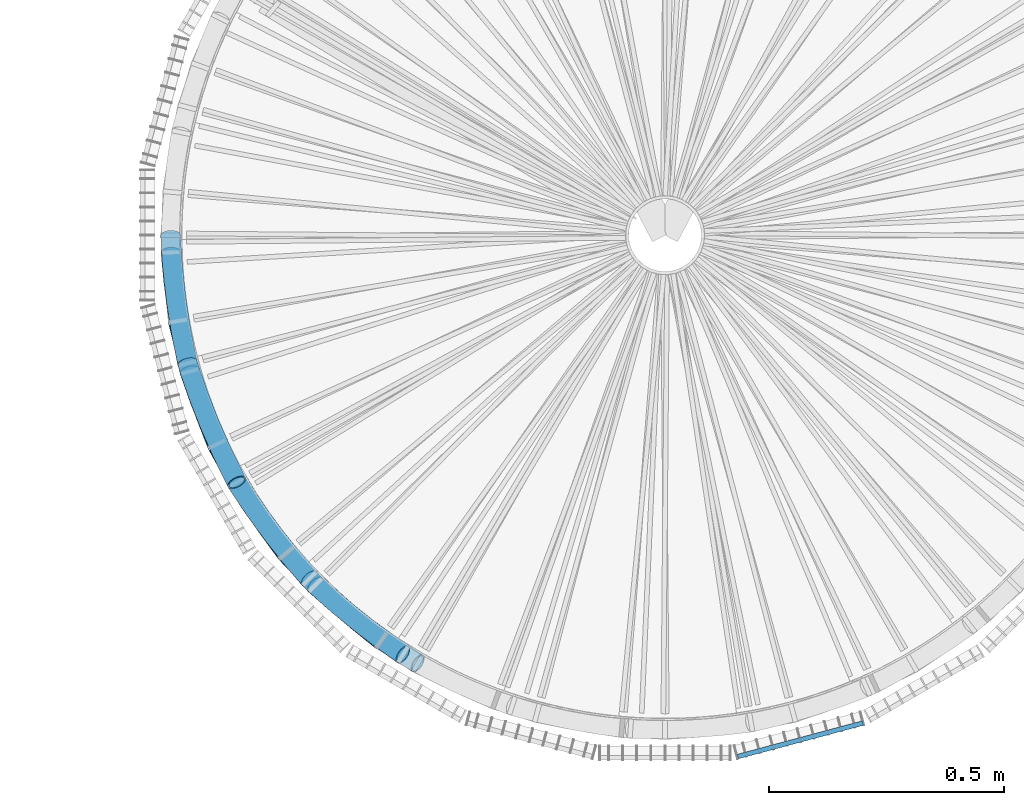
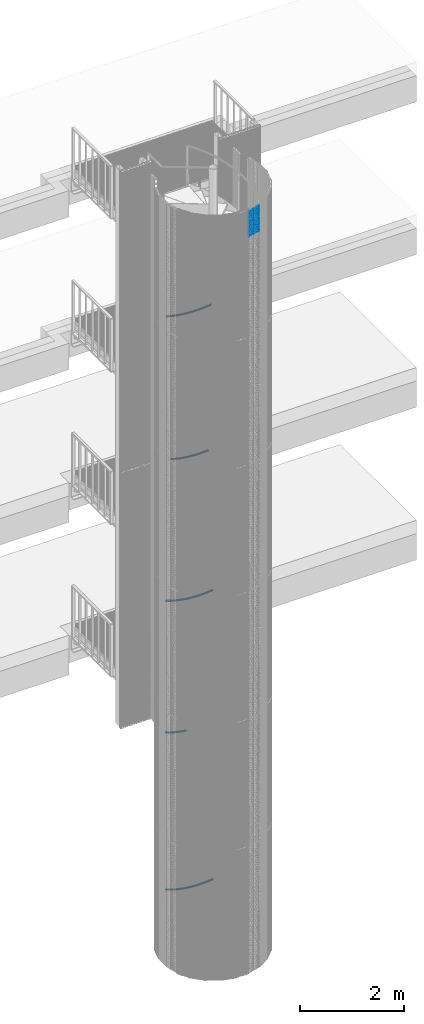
# One storey, part 133 of 1148: 21 beams, 17 members, 18 elements without a shape of their own.
"""IFC2X3 building model written with IfcOpenShell, lengths in millimetres."""

from ifc_helpers import new_model, entity, si_unit, frame, origin_with_axes, origin_2d_with_axis, place, context, subcontext, project, spatial, rectangle, extrude, material, type_object, element, aggregate, save


model = new_model("IFC2X3")

# Units and contexts
model_context = context("Model", 3, precision=1e-05, world=origin_with_axes())
body_context = subcontext(model_context, "Body", "Model", "MODEL_VIEW")
ifc_project = project(units=[si_unit("LENGTHUNIT", "METRE", prefix="MILLI"), si_unit("AREAUNIT", "SQUARE_METRE"), si_unit("VOLUMEUNIT", "CUBIC_METRE"), si_unit("MASSUNIT", "GRAM", prefix="KILO"), si_unit("TIMEUNIT", "SECOND"), si_unit("PLANEANGLEUNIT", "RADIAN"), si_unit("SOLIDANGLEUNIT", "STERADIAN"), si_unit("THERMODYNAMICTEMPERATUREUNIT", "DEGREE_CELSIUS"), si_unit("LUMINOUSINTENSITYUNIT", "LUMEN")], contexts=[model_context])

# Site, building, storey
site_placement = place(None, origin_with_axes())
site = spatial("IfcSite", under=ifc_project, at=site_placement, Name="Undefined", CompositionType="ELEMENT")
building_placement = place(site_placement, origin_with_axes())
building = spatial("IfcBuilding", under=site, at=building_placement, Name="Undefined", CompositionType="ELEMENT")
storey_placement = place(building_placement, origin_with_axes())
storey = spatial("IfcBuildingStorey", under=building, at=storey_placement, Name="Undefined", CompositionType="ELEMENT", Elevation=0.0)

# Assembly, beams
assembly_1_placement = place(storey_placement, origin_with_axes())
assembly_1 = element("IfcElementAssembly", 1, at=assembly_1_placement, inside=storey, Name="BORDURE", AssemblyPlace="NOTDEFINED", PredefinedType="NOTDEFINED")
ifc_material = material(Name="STEEL/S235JR")
beam_type = type_object("IfcBeamType", Name="PL2*10", PredefinedType="NOTDEFINED")
beam_1_placement = place(assembly_1_placement, frame((154.895926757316, -1111.25508286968, 17970.0), z_axis=(0.258819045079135, -0.965925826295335, 0.0), x_axis=(0.965925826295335, 0.258819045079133, 0.0)))
beam_1 = element("IfcBeam", 2, at=beam_1_placement, type_object=beam_type, material=ifc_material, Name="ENTRETOISE", context=body_context, shape_type="SweptSolid", body=[
    extrude(rectangle(XDim=2.0, YDim=10.0, at=origin_2d_with_axis()), frame((275.999999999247, 9.09494701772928e-13, 1.53210777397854e-14), z_axis=(-1.0, 0.0, 0.0), x_axis=(0.0, -1.0, 0.0)), (0.0, 0.0, 1.0), 276.0),
])
beam_2_placement = place(assembly_1_placement, frame((154.895926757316, -1111.25508286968, 17940.0), z_axis=(0.258819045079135, -0.965925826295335, 0.0), x_axis=(0.965925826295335, 0.258819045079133, 0.0)))
beam_2 = element("IfcBeam", 3, at=beam_2_placement, type_object=beam_type, material=ifc_material, Name="ENTRETOISE", context=body_context, shape_type="SweptSolid", body=[
    extrude(rectangle(XDim=2.0, YDim=10.0, at=origin_2d_with_axis()), frame((275.999999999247, 9.09494701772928e-13, 1.53210777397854e-14), z_axis=(-1.0, 0.0, 0.0), x_axis=(0.0, -1.0, 0.0)), (0.0, 0.0, 1.0), 276.0),
])
beam_3_placement = place(assembly_1_placement, frame((154.895926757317, -1111.25508286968, 17910.0), z_axis=(0.258819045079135, -0.965925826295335, 0.0), x_axis=(0.965925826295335, 0.258819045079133, 0.0)))
beam_3 = element("IfcBeam", 4, at=beam_3_placement, type_object=beam_type, material=ifc_material, Name="ENTRETOISE", context=body_context, shape_type="SweptSolid", body=[
    extrude(rectangle(XDim=2.0, YDim=10.0, at=origin_2d_with_axis()), frame((275.999999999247, 9.09494701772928e-13, 1.53210777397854e-14), z_axis=(-1.0, 0.0, 0.0), x_axis=(0.0, -1.0, 0.0)), (0.0, 0.0, 1.0), 276.0),
])
beam_4_placement = place(assembly_1_placement, frame((154.895926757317, -1111.25508286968, 17880.0), z_axis=(0.258819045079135, -0.965925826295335, 0.0), x_axis=(0.965925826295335, 0.258819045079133, 0.0)))
beam_4 = element("IfcBeam", 5, at=beam_4_placement, type_object=beam_type, material=ifc_material, Name="ENTRETOISE", context=body_context, shape_type="SweptSolid", body=[
    extrude(rectangle(XDim=2.0, YDim=10.0, at=origin_2d_with_axis()), frame((275.999999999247, 9.09494701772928e-13, 1.53210777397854e-14), z_axis=(-1.0, 0.0, 0.0), x_axis=(0.0, -1.0, 0.0)), (0.0, 0.0, 1.0), 276.0),
])
beam_5_placement = place(assembly_1_placement, frame((154.895926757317, -1111.25508286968, 17850.0), z_axis=(0.258819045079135, -0.965925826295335, 0.0), x_axis=(0.965925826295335, 0.258819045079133, 0.0)))
beam_5 = element("IfcBeam", 6, at=beam_5_placement, type_object=beam_type, material=ifc_material, Name="ENTRETOISE", context=body_context, shape_type="SweptSolid", body=[
    extrude(rectangle(XDim=2.0, YDim=10.0, at=origin_2d_with_axis()), frame((275.999999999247, 9.09494701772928e-13, 1.53210777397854e-14), z_axis=(-1.0, 0.0, 0.0), x_axis=(0.0, -1.0, 0.0)), (0.0, 0.0, 1.0), 276.0),
])
beam_6_placement = place(assembly_1_placement, frame((154.895926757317, -1111.25508286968, 17820.0), z_axis=(0.258819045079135, -0.965925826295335, 0.0), x_axis=(0.965925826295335, 0.258819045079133, 0.0)))
beam_6 = element("IfcBeam", 7, at=beam_6_placement, type_object=beam_type, material=ifc_material, Name="ENTRETOISE", context=body_context, shape_type="SweptSolid", body=[
    extrude(rectangle(XDim=2.0, YDim=10.0, at=origin_2d_with_axis()), frame((275.999999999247, 9.09494701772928e-13, 1.53210777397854e-14), z_axis=(-1.0, 0.0, 0.0), x_axis=(0.0, -1.0, 0.0)), (0.0, 0.0, 1.0), 276.0),
])
beam_7_placement = place(assembly_1_placement, frame((154.895926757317, -1111.25508286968, 17790.0), z_axis=(0.258819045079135, -0.965925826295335, 0.0), x_axis=(0.965925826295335, 0.258819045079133, 0.0)))
beam_7 = element("IfcBeam", 8, at=beam_7_placement, type_object=beam_type, material=ifc_material, Name="ENTRETOISE", context=body_context, shape_type="SweptSolid", body=[
    extrude(rectangle(XDim=2.0, YDim=10.0, at=origin_2d_with_axis()), frame((275.999999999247, 9.09494701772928e-13, 1.53210777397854e-14), z_axis=(-1.0, 0.0, 0.0), x_axis=(0.0, -1.0, 0.0)), (0.0, 0.0, 1.0), 276.0),
])
beam_8_placement = place(assembly_1_placement, frame((154.895926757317, -1111.25508286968, 17760.0), z_axis=(0.258819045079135, -0.965925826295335, 0.0), x_axis=(0.965925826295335, 0.258819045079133, 0.0)))
beam_8 = element("IfcBeam", 9, at=beam_8_placement, type_object=beam_type, material=ifc_material, Name="ENTRETOISE", context=body_context, shape_type="SweptSolid", body=[
    extrude(rectangle(XDim=2.0, YDim=10.0, at=origin_2d_with_axis()), frame((275.999999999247, 9.09494701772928e-13, 1.53210777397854e-14), z_axis=(-1.0, 0.0, 0.0), x_axis=(0.0, -1.0, 0.0)), (0.0, 0.0, 1.0), 276.0),
])
beam_9_placement = place(assembly_1_placement, frame((154.895926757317, -1111.25508286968, 17730.0), z_axis=(0.258819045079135, -0.965925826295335, 0.0), x_axis=(0.965925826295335, 0.258819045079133, 0.0)))
beam_9 = element("IfcBeam", 10, at=beam_9_placement, type_object=beam_type, material=ifc_material, Name="ENTRETOISE", context=body_context, shape_type="SweptSolid", body=[
    extrude(rectangle(XDim=2.0, YDim=10.0, at=origin_2d_with_axis()), frame((275.999999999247, 9.09494701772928e-13, 1.53210777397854e-14), z_axis=(-1.0, 0.0, 0.0), x_axis=(0.0, -1.0, 0.0)), (0.0, 0.0, 1.0), 276.0),
])
beam_10_placement = place(assembly_1_placement, frame((154.895926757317, -1111.25508286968, 17700.0), z_axis=(0.258819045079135, -0.965925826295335, 0.0), x_axis=(0.965925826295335, 0.258819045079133, 0.0)))
beam_10 = element("IfcBeam", 11, at=beam_10_placement, type_object=beam_type, material=ifc_material, Name="ENTRETOISE", context=body_context, shape_type="SweptSolid", body=[
    extrude(rectangle(XDim=2.0, YDim=10.0, at=origin_2d_with_axis()), frame((275.999999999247, 9.09494701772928e-13, 1.53210777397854e-14), z_axis=(-1.0, 0.0, 0.0), x_axis=(0.0, -1.0, 0.0)), (0.0, 0.0, 1.0), 276.0),
])
beam_11_placement = place(assembly_1_placement, frame((154.895926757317, -1111.25508286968, 17670.0), z_axis=(0.258819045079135, -0.965925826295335, 0.0), x_axis=(0.965925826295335, 0.258819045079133, 0.0)))
beam_11 = element("IfcBeam", 12, at=beam_11_placement, type_object=beam_type, material=ifc_material, Name="ENTRETOISE", context=body_context, shape_type="SweptSolid", body=[
    extrude(rectangle(XDim=2.0, YDim=10.0, at=origin_2d_with_axis()), frame((275.999999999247, 9.09494701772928e-13, 1.53210777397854e-14), z_axis=(-1.0, 0.0, 0.0), x_axis=(0.0, -1.0, 0.0)), (0.0, 0.0, 1.0), 276.0),
])
beam_12_placement = place(assembly_1_placement, frame((154.895926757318, -1111.25508286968, 17640.0), z_axis=(0.258819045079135, -0.965925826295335, 0.0), x_axis=(0.965925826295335, 0.258819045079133, 0.0)))
beam_12 = element("IfcBeam", 13, at=beam_12_placement, type_object=beam_type, material=ifc_material, Name="ENTRETOISE", context=body_context, shape_type="SweptSolid", body=[
    extrude(rectangle(XDim=2.0, YDim=10.0, at=origin_2d_with_axis()), frame((275.999999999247, 9.09494701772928e-13, 1.53210777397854e-14), z_axis=(-1.0, 0.0, 0.0), x_axis=(0.0, -1.0, 0.0)), (0.0, 0.0, 1.0), 276.0),
])
beam_13_placement = place(assembly_1_placement, frame((154.895926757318, -1111.25508286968, 17610.0), z_axis=(0.258819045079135, -0.965925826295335, 0.0), x_axis=(0.965925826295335, 0.258819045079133, 0.0)))
beam_13 = element("IfcBeam", 14, at=beam_13_placement, type_object=beam_type, material=ifc_material, Name="ENTRETOISE", context=body_context, shape_type="SweptSolid", body=[
    extrude(rectangle(XDim=2.0, YDim=10.0, at=origin_2d_with_axis()), frame((275.999999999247, 9.09494701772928e-13, 1.53210777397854e-14), z_axis=(-1.0, 0.0, 0.0), x_axis=(0.0, -1.0, 0.0)), (0.0, 0.0, 1.0), 276.0),
])
beam_14_placement = place(assembly_1_placement, frame((154.895926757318, -1111.25508286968, 17580.0), z_axis=(0.258819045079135, -0.965925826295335, 0.0), x_axis=(0.965925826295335, 0.258819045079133, 0.0)))
beam_14 = element("IfcBeam", 15, at=beam_14_placement, type_object=beam_type, material=ifc_material, Name="ENTRETOISE", context=body_context, shape_type="SweptSolid", body=[
    extrude(rectangle(XDim=2.0, YDim=10.0, at=origin_2d_with_axis()), frame((275.999999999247, 9.09494701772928e-13, 1.53210777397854e-14), z_axis=(-1.0, 0.0, 0.0), x_axis=(0.0, -1.0, 0.0)), (0.0, 0.0, 1.0), 276.0),
])
beam_15_placement = place(assembly_1_placement, frame((154.895926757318, -1111.25508286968, 17550.0), z_axis=(0.258819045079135, -0.965925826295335, 0.0), x_axis=(0.965925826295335, 0.258819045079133, 0.0)))
beam_15 = element("IfcBeam", 16, at=beam_15_placement, type_object=beam_type, material=ifc_material, Name="ENTRETOISE", context=body_context, shape_type="SweptSolid", body=[
    extrude(rectangle(XDim=2.0, YDim=10.0, at=origin_2d_with_axis()), frame((275.999999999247, 9.09494701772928e-13, 1.53210777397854e-14), z_axis=(-1.0, 0.0, 0.0), x_axis=(0.0, -1.0, 0.0)), (0.0, 0.0, 1.0), 276.0),
])
beam_16_placement = place(assembly_1_placement, frame((154.895926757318, -1111.25508286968, 17520.0), z_axis=(0.258819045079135, -0.965925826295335, 0.0), x_axis=(0.965925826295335, 0.258819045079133, 0.0)))
beam_16 = element("IfcBeam", 17, at=beam_16_placement, type_object=beam_type, material=ifc_material, Name="ENTRETOISE", context=body_context, shape_type="SweptSolid", body=[
    extrude(rectangle(XDim=2.0, YDim=10.0, at=origin_2d_with_axis()), frame((275.999999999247, 9.09494701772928e-13, 1.53210777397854e-14), z_axis=(-1.0, 0.0, 0.0), x_axis=(0.0, -1.0, 0.0)), (0.0, 0.0, 1.0), 276.0),
])
beam_17_placement = place(assembly_1_placement, frame((154.895926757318, -1111.25508286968, 17490.0), z_axis=(0.258819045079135, -0.965925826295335, 0.0), x_axis=(0.965925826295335, 0.258819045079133, 0.0)))
beam_17 = element("IfcBeam", 18, at=beam_17_placement, type_object=beam_type, material=ifc_material, Name="ENTRETOISE", context=body_context, shape_type="SweptSolid", body=[
    extrude(rectangle(XDim=2.0, YDim=10.0, at=origin_2d_with_axis()), frame((275.999999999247, 9.09494701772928e-13, 1.53210777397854e-14), z_axis=(-1.0, 0.0, 0.0), x_axis=(0.0, -1.0, 0.0)), (0.0, 0.0, 1.0), 276.0),
])
beam_18_placement = place(assembly_1_placement, frame((154.895926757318, -1111.25508286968, 17460.0), z_axis=(0.258819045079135, -0.965925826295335, 0.0), x_axis=(0.965925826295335, 0.258819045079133, 0.0)))
beam_18 = element("IfcBeam", 19, at=beam_18_placement, type_object=beam_type, material=ifc_material, Name="ENTRETOISE", context=body_context, shape_type="SweptSolid", body=[
    extrude(rectangle(XDim=2.0, YDim=10.0, at=origin_2d_with_axis()), frame((275.999999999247, 9.09494701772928e-13, 1.53210777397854e-14), z_axis=(-1.0, 0.0, 0.0), x_axis=(0.0, -1.0, 0.0)), (0.0, 0.0, 1.0), 276.0),
])
beam_19_placement = place(assembly_1_placement, frame((154.895926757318, -1111.25508286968, 17430.0), z_axis=(0.258819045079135, -0.965925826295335, 0.0), x_axis=(0.965925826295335, 0.258819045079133, 0.0)))
beam_19 = element("IfcBeam", 20, at=beam_19_placement, type_object=beam_type, material=ifc_material, Name="ENTRETOISE", context=body_context, shape_type="SweptSolid", body=[
    extrude(rectangle(XDim=2.0, YDim=10.0, at=origin_2d_with_axis()), frame((275.999999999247, 9.09494701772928e-13, 1.53210777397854e-14), z_axis=(-1.0, 0.0, 0.0), x_axis=(0.0, -1.0, 0.0)), (0.0, 0.0, 1.0), 276.0),
])
beam_20_placement = place(assembly_1_placement, frame((154.895926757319, -1111.25508286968, 17400.0), z_axis=(0.258819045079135, -0.965925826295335, 0.0), x_axis=(0.965925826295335, 0.258819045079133, 0.0)))
beam_20 = element("IfcBeam", 21, at=beam_20_placement, type_object=beam_type, material=ifc_material, Name="ENTRETOISE", context=body_context, shape_type="SweptSolid", body=[
    extrude(rectangle(XDim=2.0, YDim=10.0, at=origin_2d_with_axis()), frame((275.999999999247, 9.09494701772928e-13, 1.53210777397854e-14), z_axis=(-1.0, 0.0, 0.0), x_axis=(0.0, -1.0, 0.0)), (0.0, 0.0, 1.0), 276.0),
])
beam_21_placement = place(assembly_1_placement, frame((154.895926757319, -1111.25508286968, 17370.0), z_axis=(0.258819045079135, -0.965925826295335, 0.0), x_axis=(0.965925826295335, 0.258819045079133, 0.0)))
beam_21 = element("IfcBeam", 22, at=beam_21_placement, type_object=beam_type, material=ifc_material, Name="ENTRETOISE", context=body_context, shape_type="SweptSolid", body=[
    extrude(rectangle(XDim=2.0, YDim=10.0, at=origin_2d_with_axis()), frame((275.999999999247, 9.09494701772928e-13, 1.53210777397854e-14), z_axis=(-1.0, 0.0, 0.0), x_axis=(0.0, -1.0, 0.0)), (0.0, 0.0, 1.0), 276.0),
])
aggregate(assembly_1, [beam_1, beam_2, beam_3, beam_4, beam_5, beam_6, beam_7, beam_8, beam_9, beam_10, beam_11, beam_12, beam_13, beam_14, beam_15, beam_16, beam_17, beam_18, beam_19, beam_20, beam_21])

# Assembly, member
assembly_2_placement = place(storey_placement, origin_with_axes())
assembly_2 = element("IfcElementAssembly", 23, at=assembly_2_placement, inside=storey, Name="MONTANT", AssemblyPlace="NOTDEFINED", PredefinedType="NOTDEFINED")
member_type = type_object("IfcMemberType", Name="TUBE-42.4*3.2", PredefinedType="NOTDEFINED")
member_1_placement = place(assembly_2_placement, frame((-1018.08582090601, -272.795273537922, 5581.08000000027), z_axis=(-0.923879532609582, -0.382683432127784, -1.50203959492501e-10), x_axis=(0.333667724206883, -0.805545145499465, 0.489655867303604)))
member_1 = element("IfcMember", 24, at=member_1_placement, type_object=member_type, material=ifc_material, Name="MAIN_COURANTE", context=body_context, shape_type="SweptSolid", body=[
    entity("IfcRevolvedAreaSolid", entity("IfcCircleHollowProfileDef", "AREA", None, entity("IfcAxis2Placement2D", entity("IfcCartesianPoint", [0.0, 0.0]), entity("IfcDirection", [1.0, 0.0])), 21.200000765, 3.200000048), entity("IfcAxis2Placement3D", entity("IfcCartesianPoint", [315.568566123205, -9.09494701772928e-13, -1.31255851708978e-15]), entity("IfcDirection", [-0.997194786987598, -4.44488503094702e-18, 0.0748502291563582]), entity("IfcDirection", [0.0, -1.0, 0.0])), entity("IfcAxis1Placement", entity("IfcCartesianPoint", [0.0, -2108.0, 0.0]), entity("IfcDirection", [1.0, 0.0, 0.0])), 0.149840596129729),
])
aggregate(assembly_2, [member_1])

assembly_3_placement = place(storey_placement, origin_with_axes())
assembly_3 = element("IfcElementAssembly", 25, at=assembly_3_placement, inside=storey, Name="MONTANT", AssemblyPlace="NOTDEFINED", PredefinedType="NOTDEFINED")
member_2_placement = place(assembly_3_placement, frame((-1054.00000001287, -4.08931555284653e-10, 5426.5600000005), z_axis=(-0.991444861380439, -0.130526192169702, -6.66004780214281e-11), x_axis=(0.11380784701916, -0.864456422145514, 0.489655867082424)))
member_2 = element("IfcMember", 26, at=member_2_placement, type_object=member_type, material=ifc_material, Name="MAIN_COURANTE", context=body_context, shape_type="SweptSolid", body=[
    entity("IfcRevolvedAreaSolid", entity("IfcCircleHollowProfileDef", "AREA", None, entity("IfcAxis2Placement2D", entity("IfcCartesianPoint", [0.0, 0.0]), entity("IfcDirection", [1.0, 0.0])), 21.200000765, 3.200000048), entity("IfcAxis2Placement3D", entity("IfcCartesianPoint", [315.568566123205, -9.09494701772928e-13, -1.31255851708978e-15]), entity("IfcDirection", [-0.997194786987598, -4.44488503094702e-18, 0.0748502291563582]), entity("IfcDirection", [0.0, -1.0, 0.0])), entity("IfcAxis1Placement", entity("IfcCartesianPoint", [0.0, -2108.0, 0.0]), entity("IfcDirection", [1.0, 0.0, 0.0])), 0.149840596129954),
])
aggregate(assembly_3, [member_2])

assembly_4_placement = place(storey_placement, origin_with_axes())
assembly_4 = element("IfcElementAssembly", 27, at=assembly_4_placement, inside=storey, Name="MONTANT", AssemblyPlace="NOTDEFINED", PredefinedType="NOTDEFINED")
member_3_placement = place(assembly_4_placement, frame((-745.290547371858, -745.290547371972, 2181.64000000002), z_axis=(-0.608761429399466, -0.793353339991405, 1.80915776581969e-10), x_axis=(0.691737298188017, -0.530788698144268, 0.489655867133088)))
member_3 = element("IfcMember", 28, at=member_3_placement, type_object=member_type, material=ifc_material, Name="MAIN_COURANTE", context=body_context, shape_type="SweptSolid", body=[
    entity("IfcRevolvedAreaSolid", entity("IfcCircleHollowProfileDef", "AREA", None, entity("IfcAxis2Placement2D", entity("IfcCartesianPoint", [0.0, 0.0]), entity("IfcDirection", [1.0, 0.0])), 21.200000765, 3.200000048), entity("IfcAxis2Placement3D", entity("IfcCartesianPoint", [315.568566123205, -9.09494701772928e-13, -1.31255851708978e-15]), entity("IfcDirection", [-0.997194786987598, -4.44488503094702e-18, 0.0748502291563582]), entity("IfcDirection", [0.0, -1.0, 0.0])), entity("IfcAxis1Placement", entity("IfcCartesianPoint", [0.0, -2108.0, 0.0]), entity("IfcDirection", [1.0, 0.0, 0.0])), 0.149840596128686),
])
aggregate(assembly_4, [member_3])

assembly_5_placement = place(storey_placement, origin_with_axes())
assembly_5 = element("IfcElementAssembly", 29, at=assembly_5_placement, inside=storey, Name="MONTANT", AssemblyPlace="NOTDEFINED", PredefinedType="NOTDEFINED")
member_4_placement = place(assembly_5_placement, frame((-745.290547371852, -745.290547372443, 8998.67999999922), z_axis=(-0.608761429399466, -0.793353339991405, 1.80915776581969e-10), x_axis=(0.689586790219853, -0.5291385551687, 0.494451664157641)))
member_4 = element("IfcMember", 30, at=member_4_placement, type_object=member_type, material=ifc_material, Name="MAIN_COURANTE", context=body_context, shape_type="SweptSolid", body=[
    entity("IfcRevolvedAreaSolid", entity("IfcCircleHollowProfileDef", "AREA", None, entity("IfcAxis2Placement2D", entity("IfcCartesianPoint", [0.0, 0.0]), entity("IfcDirection", [1.0, 0.0])), 21.200000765, 3.200000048), entity("IfcAxis2Placement3D", entity("IfcCartesianPoint", [316.552681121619, 9.09494701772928e-13, -1.82569453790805e-12]), entity("IfcDirection", [-0.997177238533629, 2.1263748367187e-18, 0.0750836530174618]), entity("IfcDirection", [0.0, -1.0, 0.0])), entity("IfcAxis1Placement", entity("IfcCartesianPoint", [0.0, -2108.0, 0.0]), entity("IfcDirection", [1.0, 0.0, 0.0])), 0.150308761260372),
])
aggregate(assembly_5, [member_4])

assembly_6_placement = place(storey_placement, origin_with_axes())
assembly_6 = element("IfcElementAssembly", 31, at=assembly_6_placement, inside=storey, Name="MONTANT", AssemblyPlace="NOTDEFINED", PredefinedType="NOTDEFINED")
member_5_placement = place(assembly_6_placement, frame((-912.790775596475, -527.000000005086, 8842.16000000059), z_axis=(-0.793353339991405, -0.608761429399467, -1.80915776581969e-10), x_axis=(0.529138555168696, -0.689586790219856, 0.494451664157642)))
member_5 = element("IfcMember", 32, at=member_5_placement, type_object=member_type, material=ifc_material, Name="MAIN_COURANTE", context=body_context, shape_type="SweptSolid", body=[
    entity("IfcRevolvedAreaSolid", entity("IfcCircleHollowProfileDef", "AREA", None, entity("IfcAxis2Placement2D", entity("IfcCartesianPoint", [0.0, 0.0]), entity("IfcDirection", [1.0, 0.0])), 21.200000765, 3.200000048), entity("IfcAxis2Placement3D", entity("IfcCartesianPoint", [316.552681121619, 9.09494701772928e-13, -1.82569453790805e-12]), entity("IfcDirection", [-0.997177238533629, 2.1263748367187e-18, 0.0750836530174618]), entity("IfcDirection", [0.0, -1.0, 0.0])), entity("IfcAxis1Placement", entity("IfcCartesianPoint", [0.0, -2108.0, 0.0]), entity("IfcDirection", [1.0, 0.0, 0.0])), 0.150308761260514),
])
aggregate(assembly_6, [member_5])

assembly_7_placement = place(storey_placement, origin_with_axes())
assembly_7 = element("IfcElementAssembly", 33, at=assembly_7_placement, inside=storey, Name="MONTANT", AssemblyPlace="NOTDEFINED", PredefinedType="NOTDEFINED")
member_6_placement = place(assembly_7_placement, frame((-1018.08582090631, -272.795273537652, 8685.64000000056), z_axis=(-0.923879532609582, -0.382683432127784, -1.50203959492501e-10), x_axis=(0.332630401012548, -0.803040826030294, 0.494451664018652)))
member_6 = element("IfcMember", 34, at=member_6_placement, type_object=member_type, material=ifc_material, Name="MAIN_COURANTE", context=body_context, shape_type="SweptSolid", body=[
    entity("IfcRevolvedAreaSolid", entity("IfcCircleHollowProfileDef", "AREA", None, entity("IfcAxis2Placement2D", entity("IfcCartesianPoint", [0.0, 0.0]), entity("IfcDirection", [1.0, 0.0])), 21.200000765, 3.200000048), entity("IfcAxis2Placement3D", entity("IfcCartesianPoint", [316.552681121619, 9.09494701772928e-13, -1.82569453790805e-12]), entity("IfcDirection", [-0.997177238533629, 2.1263748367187e-18, 0.0750836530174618]), entity("IfcDirection", [0.0, -1.0, 0.0])), entity("IfcAxis1Placement", entity("IfcCartesianPoint", [0.0, -2108.0, 0.0]), entity("IfcDirection", [1.0, 0.0, 0.0])), 0.150308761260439),
])
aggregate(assembly_7, [member_6])

assembly_8_placement = place(storey_placement, origin_with_axes())
assembly_8 = element("IfcElementAssembly", 35, at=assembly_8_placement, inside=storey, Name="MONTANT", AssemblyPlace="NOTDEFINED", PredefinedType="NOTDEFINED")
member_7_placement = place(assembly_8_placement, frame((-1053.99999999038, -1.15562670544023e-10, 8529.11999999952), z_axis=(-0.991444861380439, -0.130526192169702, -6.66004780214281e-11), x_axis=(0.113454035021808, -0.861768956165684, 0.494451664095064)))
member_7 = element("IfcMember", 36, at=member_7_placement, type_object=member_type, material=ifc_material, Name="MAIN_COURANTE", context=body_context, shape_type="SweptSolid", body=[
    entity("IfcRevolvedAreaSolid", entity("IfcCircleHollowProfileDef", "AREA", None, entity("IfcAxis2Placement2D", entity("IfcCartesianPoint", [0.0, 0.0]), entity("IfcDirection", [1.0, 0.0])), 21.200000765, 3.200000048), entity("IfcAxis2Placement3D", entity("IfcCartesianPoint", [316.552681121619, 9.09494701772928e-13, -1.82569453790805e-12]), entity("IfcDirection", [-0.997177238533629, 2.1263748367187e-18, 0.0750836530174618]), entity("IfcDirection", [0.0, -1.0, 0.0])), entity("IfcAxis1Placement", entity("IfcCartesianPoint", [0.0, -2108.0, 0.0]), entity("IfcDirection", [1.0, 0.0, 0.0])), 0.150308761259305),
])
aggregate(assembly_8, [member_7])

assembly_9_placement = place(storey_placement, origin_with_axes())
assembly_9 = element("IfcElementAssembly", 37, at=assembly_9_placement, inside=storey, Name="MONTANT", AssemblyPlace="NOTDEFINED", PredefinedType="NOTDEFINED")
member_8_placement = place(assembly_9_placement, frame((-807.410843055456, -677.498140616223, 12285.6400000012), z_axis=(-0.675590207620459, -0.737277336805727, 8.45193426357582e-11), x_axis=(0.640845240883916, -0.587226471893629, 0.494451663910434)))
member_8 = element("IfcMember", 38, at=member_8_placement, type_object=member_type, material=ifc_material, Name="MAIN_COURANTE", context=body_context, shape_type="SweptSolid", body=[
    entity("IfcRevolvedAreaSolid", entity("IfcCircleHollowProfileDef", "AREA", None, entity("IfcAxis2Placement2D", entity("IfcCartesianPoint", [0.0, 0.0]), entity("IfcDirection", [1.0, 0.0])), 21.200000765, 3.200000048), entity("IfcAxis2Placement3D", entity("IfcCartesianPoint", [316.552681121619, 9.09494701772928e-13, -1.82569453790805e-12]), entity("IfcDirection", [-0.997177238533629, 2.1263748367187e-18, 0.0750836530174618]), entity("IfcDirection", [0.0, -1.0, 0.0])), entity("IfcAxis1Placement", entity("IfcCartesianPoint", [0.0, -2108.0, 0.0]), entity("IfcDirection", [1.0, 0.0, 0.0])), 0.150308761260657),
])
aggregate(assembly_9, [member_8])

assembly_10_placement = place(storey_placement, origin_with_axes())
assembly_10 = element("IfcElementAssembly", 39, at=assembly_10_placement, inside=storey, Name="MONTANT", AssemblyPlace="NOTDEFINED", PredefinedType="NOTDEFINED")
member_9_placement = place(assembly_10_placement, frame((-955.248407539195, -445.439647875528, 12129.1200000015), z_axis=(-0.843391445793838, -0.537299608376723, 2.43751856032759e-10), x_axis=(0.467023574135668, -0.733080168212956, 0.494451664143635)))
member_9 = element("IfcMember", 40, at=member_9_placement, type_object=member_type, material=ifc_material, Name="MAIN_COURANTE", context=body_context, shape_type="SweptSolid", body=[
    entity("IfcRevolvedAreaSolid", entity("IfcCircleHollowProfileDef", "AREA", None, entity("IfcAxis2Placement2D", entity("IfcCartesianPoint", [0.0, 0.0]), entity("IfcDirection", [1.0, 0.0])), 21.200000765, 3.200000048), entity("IfcAxis2Placement3D", entity("IfcCartesianPoint", [316.552681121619, 9.09494701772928e-13, -1.82569453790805e-12]), entity("IfcDirection", [-0.997177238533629, 2.1263748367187e-18, 0.0750836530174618]), entity("IfcDirection", [0.0, -1.0, 0.0])), entity("IfcAxis1Placement", entity("IfcCartesianPoint", [0.0, -2108.0, 0.0]), entity("IfcDirection", [1.0, 0.0, 0.0])), 0.150308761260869),
])
aggregate(assembly_10, [member_9])

assembly_11_placement = place(storey_placement, origin_with_axes())
assembly_11 = element("IfcElementAssembly", 41, at=assembly_11_placement, inside=storey, Name="MONTANT", AssemblyPlace="NOTDEFINED", PredefinedType="NOTDEFINED")
member_10_placement = place(assembly_11_placement, frame((-1037.98737168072, -183.02517926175, 11972.599999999), z_axis=(-0.953716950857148, -0.300705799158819, -4.31926309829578e-10), x_axis=(0.261375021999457, -0.828975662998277, 0.494451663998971)))
member_10 = element("IfcMember", 42, at=member_10_placement, type_object=member_type, material=ifc_material, Name="MAIN_COURANTE", context=body_context, shape_type="SweptSolid", body=[
    entity("IfcRevolvedAreaSolid", entity("IfcCircleHollowProfileDef", "AREA", None, entity("IfcAxis2Placement2D", entity("IfcCartesianPoint", [0.0, 0.0]), entity("IfcDirection", [1.0, 0.0])), 21.200000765, 3.200000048), entity("IfcAxis2Placement3D", entity("IfcCartesianPoint", [316.552681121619, 9.09494701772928e-13, -1.82569453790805e-12]), entity("IfcDirection", [-0.997177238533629, 2.1263748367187e-18, 0.0750836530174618]), entity("IfcDirection", [0.0, -1.0, 0.0])), entity("IfcAxis1Placement", entity("IfcCartesianPoint", [0.0, -2108.0, 0.0]), entity("IfcDirection", [1.0, 0.0, 0.0])), 0.150308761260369),
])
aggregate(assembly_11, [member_10])

assembly_12_placement = place(storey_placement, origin_with_axes())
assembly_12 = element("IfcElementAssembly", 43, at=assembly_12_placement, inside=storey, Name="MONTANT", AssemblyPlace="NOTDEFINED", PredefinedType="NOTDEFINED")
member_11_placement = place(assembly_12_placement, frame((-758.184149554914, -732.169922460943, 15729.119999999), z_axis=(-0.629320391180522, -0.777145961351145, 4.91618266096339e-11), x_axis=(0.663669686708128, -0.537429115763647, 0.520300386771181)))
member_11 = element("IfcMember", 44, at=member_11_placement, type_object=member_type, material=ifc_material, Name="MAIN_COURANTE", context=body_context, shape_type="SweptSolid", body=[
    entity("IfcRevolvedAreaSolid", entity("IfcCircleHollowProfileDef", "AREA", None, entity("IfcAxis2Placement2D", entity("IfcCartesianPoint", [0.0, 0.0]), entity("IfcDirection", [1.0, 0.0])), 21.200000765, 3.200000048), entity("IfcAxis2Placement3D", entity("IfcCartesianPoint", [300.826222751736, 9.26193911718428e-13, -2.55538133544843e-15]), entity("IfcDirection", [-0.997451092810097, -5.56582410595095e-17, 0.0713534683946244]), entity("IfcDirection", [0.0, -1.0, 0.0])), entity("IfcAxis1Placement", entity("IfcCartesianPoint", [0.0, -2108.0, 0.0]), entity("IfcDirection", [1.0, 0.0, 0.0])), 0.142828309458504),
])
aggregate(assembly_12, [member_11])

assembly_13_placement = place(storey_placement, origin_with_axes())
assembly_13 = element("IfcElementAssembly", 45, at=assembly_13_placement, inside=storey, Name="MONTANT", AssemblyPlace="NOTDEFINED", PredefinedType="NOTDEFINED")
member_12_placement = place(assembly_13_placement, frame((-912.790775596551, -527.000000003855, 15572.5999999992), z_axis=(-0.79863551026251, -0.601815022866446, -1.61237039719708e-10), x_axis=(0.513939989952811, -0.682021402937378, 0.520300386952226)))
member_12 = element("IfcMember", 46, at=member_12_placement, type_object=member_type, material=ifc_material, Name="MAIN_COURANTE", context=body_context, shape_type="SweptSolid", body=[
    entity("IfcRevolvedAreaSolid", entity("IfcCircleHollowProfileDef", "AREA", None, entity("IfcAxis2Placement2D", entity("IfcCartesianPoint", [0.0, 0.0]), entity("IfcDirection", [1.0, 0.0])), 21.200000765, 3.200000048), entity("IfcAxis2Placement3D", entity("IfcCartesianPoint", [300.826222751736, 9.26193911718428e-13, -2.55538133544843e-15]), entity("IfcDirection", [-0.997451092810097, -5.56582410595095e-17, 0.0713534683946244]), entity("IfcDirection", [0.0, -1.0, 0.0])), entity("IfcAxis1Placement", entity("IfcCartesianPoint", [0.0, -2108.0, 0.0]), entity("IfcDirection", [1.0, 0.0, 0.0])), 0.14282830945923),
])
aggregate(assembly_13, [member_12])

assembly_14_placement = place(storey_placement, origin_with_axes())
assembly_14 = element("IfcElementAssembly", 47, at=assembly_14_placement, inside=storey, Name="MONTANT", AssemblyPlace="NOTDEFINED", PredefinedType="NOTDEFINED")
member_13_placement = place(assembly_14_placement, frame((-1013.16982754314, -290.521773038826, 15416.0800000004), z_axis=(-0.920504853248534, -0.390731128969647, -7.61883711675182e-11), x_axis=(0.333677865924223, -0.78609578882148, 0.520300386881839)))
member_13 = element("IfcMember", 48, at=member_13_placement, type_object=member_type, material=ifc_material, Name="MAIN_COURANTE", context=body_context, shape_type="SweptSolid", body=[
    entity("IfcRevolvedAreaSolid", entity("IfcCircleHollowProfileDef", "AREA", None, entity("IfcAxis2Placement2D", entity("IfcCartesianPoint", [0.0, 0.0]), entity("IfcDirection", [1.0, 0.0])), 21.200000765, 3.200000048), entity("IfcAxis2Placement3D", entity("IfcCartesianPoint", [300.826222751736, 9.26193911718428e-13, -2.55538133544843e-15]), entity("IfcDirection", [-0.997451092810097, -5.56582410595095e-17, 0.0713534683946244]), entity("IfcDirection", [0.0, -1.0, 0.0])), entity("IfcAxis1Placement", entity("IfcCartesianPoint", [0.0, -2108.0, 0.0]), entity("IfcDirection", [1.0, 0.0, 0.0])), 0.142828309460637),
])
aggregate(assembly_14, [member_13])

assembly_15_placement = place(storey_placement, origin_with_axes())
assembly_15 = element("IfcElementAssembly", 49, at=assembly_15_placement, inside=storey, Name="MONTANT", AssemblyPlace="NOTDEFINED", PredefinedType="NOTDEFINED")
member_14_placement = place(assembly_15_placement, frame((-1053.35793169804, -36.7840695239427, 15259.5600000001), z_axis=(-0.987688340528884, -0.156434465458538, 3.20831532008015e-10), x_axis=(0.133592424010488, -0.843469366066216, 0.520300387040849)))
member_14 = element("IfcMember", 50, at=member_14_placement, type_object=member_type, material=ifc_material, Name="MAIN_COURANTE", context=body_context, shape_type="SweptSolid", body=[
    entity("IfcRevolvedAreaSolid", entity("IfcCircleHollowProfileDef", "AREA", None, entity("IfcAxis2Placement2D", entity("IfcCartesianPoint", [0.0, 0.0]), entity("IfcDirection", [1.0, 0.0])), 21.200000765, 3.200000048), entity("IfcAxis2Placement3D", entity("IfcCartesianPoint", [300.826222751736, 9.26193911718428e-13, -2.55538133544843e-15]), entity("IfcDirection", [-0.997451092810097, -5.56582410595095e-17, 0.0713534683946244]), entity("IfcDirection", [0.0, -1.0, 0.0])), entity("IfcAxis1Placement", entity("IfcCartesianPoint", [0.0, -2108.0, 0.0]), entity("IfcDirection", [1.0, 0.0, 0.0])), 0.142828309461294),
])
aggregate(assembly_15, [member_14])

assembly_16_placement = place(storey_placement, origin_with_axes())
assembly_16 = element("IfcElementAssembly", 51, at=assembly_16_placement, inside=storey, Name="MONTANT", AssemblyPlace="NOTDEFINED", PredefinedType="NOTDEFINED")
member_15_placement = place(assembly_16_placement, frame((-912.790775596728, -527.000000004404, 2027.11999999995), z_axis=(-0.793353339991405, -0.608761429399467, -1.80915776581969e-10), x_axis=(0.530788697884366, -0.691737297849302, 0.489655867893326)))
member_15 = element("IfcMember", 52, at=member_15_placement, type_object=member_type, material=ifc_material, Name="MAIN_COURANTE", context=body_context, shape_type="SweptSolid", body=[
    entity("IfcRevolvedAreaSolid", entity("IfcCircleHollowProfileDef", "AREA", None, entity("IfcAxis2Placement2D", entity("IfcCartesianPoint", [0.0, 0.0]), entity("IfcDirection", [1.0, 0.0])), 21.200000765, 3.200000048), entity("IfcAxis2Placement3D", entity("IfcCartesianPoint", [315.568566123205, -9.09494701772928e-13, -1.31255851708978e-15]), entity("IfcDirection", [-0.997194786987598, -4.44488503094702e-18, 0.0748502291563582]), entity("IfcDirection", [0.0, -1.0, 0.0])), entity("IfcAxis1Placement", entity("IfcCartesianPoint", [0.0, -2108.0, 0.0]), entity("IfcDirection", [1.0, 0.0, 0.0])), 0.149840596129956),
])
aggregate(assembly_16, [member_15])

assembly_17_placement = place(storey_placement, origin_with_axes())
assembly_17 = element("IfcElementAssembly", 53, at=assembly_17_placement, inside=storey, Name="MONTANT", AssemblyPlace="NOTDEFINED", PredefinedType="NOTDEFINED")
member_16_placement = place(assembly_17_placement, frame((-1018.08582090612, -272.795273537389, 1872.60000000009), z_axis=(-0.923879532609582, -0.382683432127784, -1.50203959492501e-10), x_axis=(0.333667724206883, -0.805545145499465, 0.489655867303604)))
member_16 = element("IfcMember", 54, at=member_16_placement, type_object=member_type, material=ifc_material, Name="MAIN_COURANTE", context=body_context, shape_type="SweptSolid", body=[
    entity("IfcRevolvedAreaSolid", entity("IfcCircleHollowProfileDef", "AREA", None, entity("IfcAxis2Placement2D", entity("IfcCartesianPoint", [0.0, 0.0]), entity("IfcDirection", [1.0, 0.0])), 21.200000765, 3.200000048), entity("IfcAxis2Placement3D", entity("IfcCartesianPoint", [315.568566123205, -9.09494701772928e-13, -1.31255851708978e-15]), entity("IfcDirection", [-0.997194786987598, -4.44488503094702e-18, 0.0748502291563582]), entity("IfcDirection", [0.0, -1.0, 0.0])), entity("IfcAxis1Placement", entity("IfcCartesianPoint", [0.0, -2108.0, 0.0]), entity("IfcDirection", [1.0, 0.0, 0.0])), 0.14984059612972),
])
aggregate(assembly_17, [member_16])

assembly_18_placement = place(storey_placement, origin_with_axes())
assembly_18 = element("IfcElementAssembly", 55, at=assembly_18_placement, inside=storey, Name="MONTANT", AssemblyPlace="NOTDEFINED", PredefinedType="NOTDEFINED")
member_17_placement = place(assembly_18_placement, frame((-1054.0000000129, -2.56306975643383e-10, 1718.08000000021), z_axis=(-0.991444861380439, -0.130526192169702, -6.66004780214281e-11), x_axis=(0.11380784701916, -0.864456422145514, 0.489655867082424)))
member_17 = element("IfcMember", 56, at=member_17_placement, type_object=member_type, material=ifc_material, Name="MAIN_COURANTE", context=body_context, shape_type="SweptSolid", body=[
    entity("IfcRevolvedAreaSolid", entity("IfcCircleHollowProfileDef", "AREA", None, entity("IfcAxis2Placement2D", entity("IfcCartesianPoint", [0.0, 0.0]), entity("IfcDirection", [1.0, 0.0])), 21.200000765, 3.200000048), entity("IfcAxis2Placement3D", entity("IfcCartesianPoint", [315.568566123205, -9.09494701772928e-13, -1.31255851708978e-15]), entity("IfcDirection", [-0.997194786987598, -4.44488503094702e-18, 0.0748502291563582]), entity("IfcDirection", [0.0, -1.0, 0.0])), entity("IfcAxis1Placement", entity("IfcCartesianPoint", [0.0, -2108.0, 0.0]), entity("IfcDirection", [1.0, 0.0, 0.0])), 0.149840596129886),
])
aggregate(assembly_18, [member_17])

save(model, "model.ifc")
